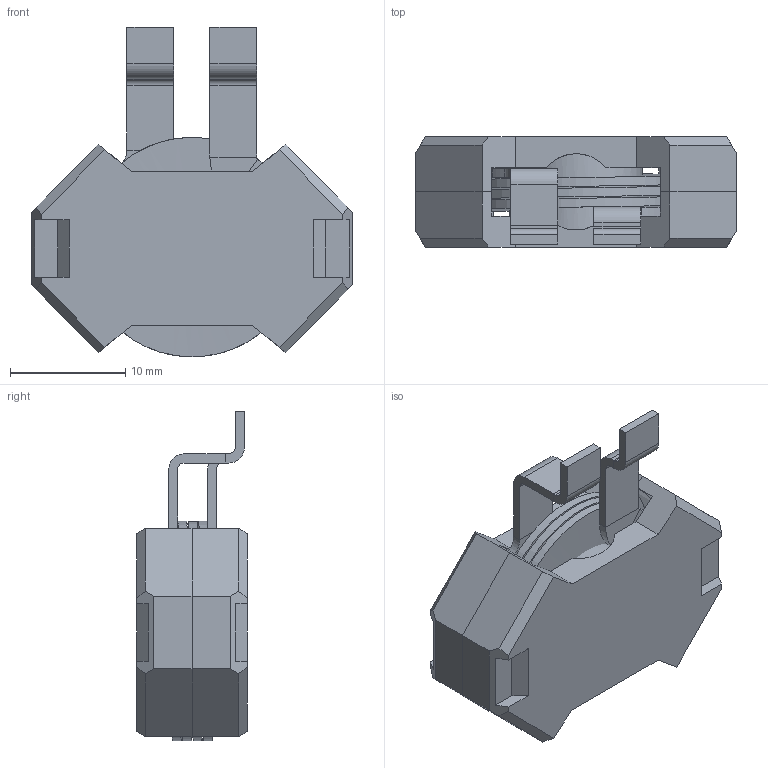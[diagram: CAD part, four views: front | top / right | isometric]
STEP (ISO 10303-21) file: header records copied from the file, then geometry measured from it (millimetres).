
FILE_DESCRIPTION (( 'STEP AP214' ), '1' );
FILE_NAME ('CWS-38365 REV.K.STEP', '2019-08-01T19:02:51', ( '' ), ( '' ), 'SwSTEP 2.0', 'SolidWorks 2015', '' );
FILE_SCHEMA (( 'AUTOMOTIVE_DESIGN' ));
Length unit declared in the file: inch
Products named in the file (7): CWS-38365 case; CWS-38365 REV.K; CWS-38365 coil
Assembly tree (4 placements, depth 2):
  CWS-38365 REV.K
    CWS-38365 coil
  CWS-38365 REV.K
    CWS-38365 case  x2
    CWS-38365 coil
  CWS-38365 case
  CWS-38365 case
Bounding box: 27.9 x 9.6 x 28.61 mm (x, y, z)
Volume: 3373.7 mm3; surface area: 4477 mm2
Topology: 3 solids, 3 shells, 151 faces, 395 edges, 251 vertices
Faces by surface type: plane 115, cylinder 32, bspline 4
Full cylindrical faces by diameter (mm): 11.5 x2
Entity records: 4833 total; most frequent: CARTESIAN_POINT 1424, ORIENTED_EDGE 574, DIRECTION 563, EDGE_CURVE 287, VECTOR 229, LINE 229, VERTEX_POINT 178, AXIS2_PLACEMENT_3D 167
